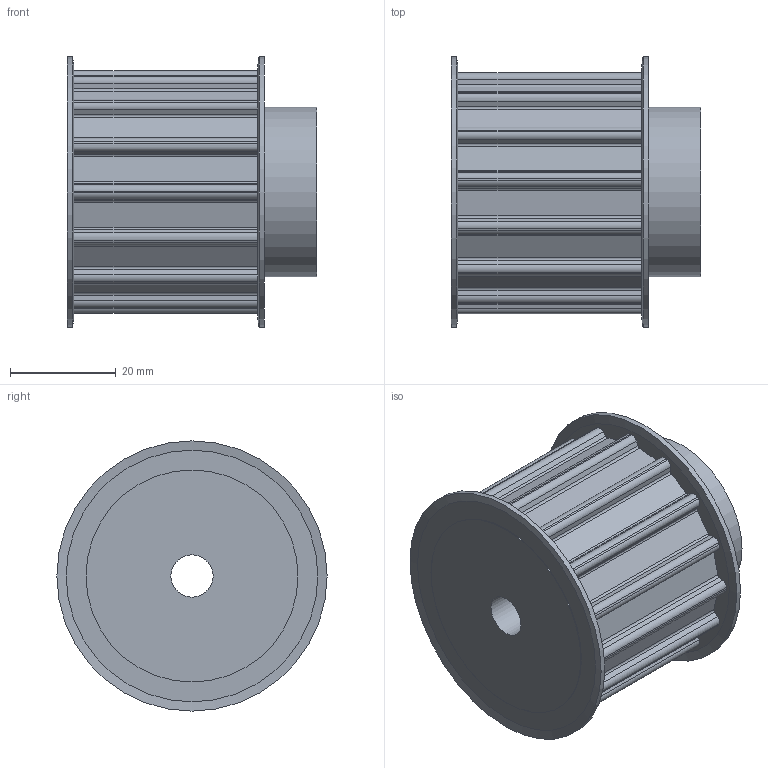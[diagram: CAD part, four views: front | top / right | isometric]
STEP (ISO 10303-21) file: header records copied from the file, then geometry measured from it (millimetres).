
FILE_DESCRIPTION(/* description */ ('STEP AP214'),/* implementation_level */ '2;1');
FILE_NAME(/* name */ '16841500',/* time_stamp */ '2025-11-03T08:38:53+01:00',/* author */ ('License CC BY-ND 4.0'),/* organization */ ('CADENAS'),/* preprocessor_version */ 'ST-DEVELOPER v20',/* originating_system */ 'PARTsolutions',/* authorisation */ ' ');
FILE_SCHEMA (('AUTOMOTIVE_DESIGN {1 0 10303 214 3 1 1}'));
Length unit declared in the file: millimetre
Products named in the file (1): 16841500
Bounding box: 47.1 x 51 x 51 mm (x, y, z)
Volume: 59925.4 mm3; surface area: 13752.3 mm2
Topology: 1 solids, 1 shells, 137 faces, 386 edges, 256 vertices
Faces by surface type: cylinder 81, plane 52, cone 4
Full cylindrical faces by diameter (mm): 8 x1, 32 x1, 40 x2, 51 x2
Entity records: 5431 total; most frequent: DIRECTION 818, CARTESIAN_POINT 770, ORIENTED_EDGE 752, EDGE_CURVE 376, AXIS2_PLACEMENT_3D 304, VERTEX_POINT 256, LINE 210, VECTOR 210
